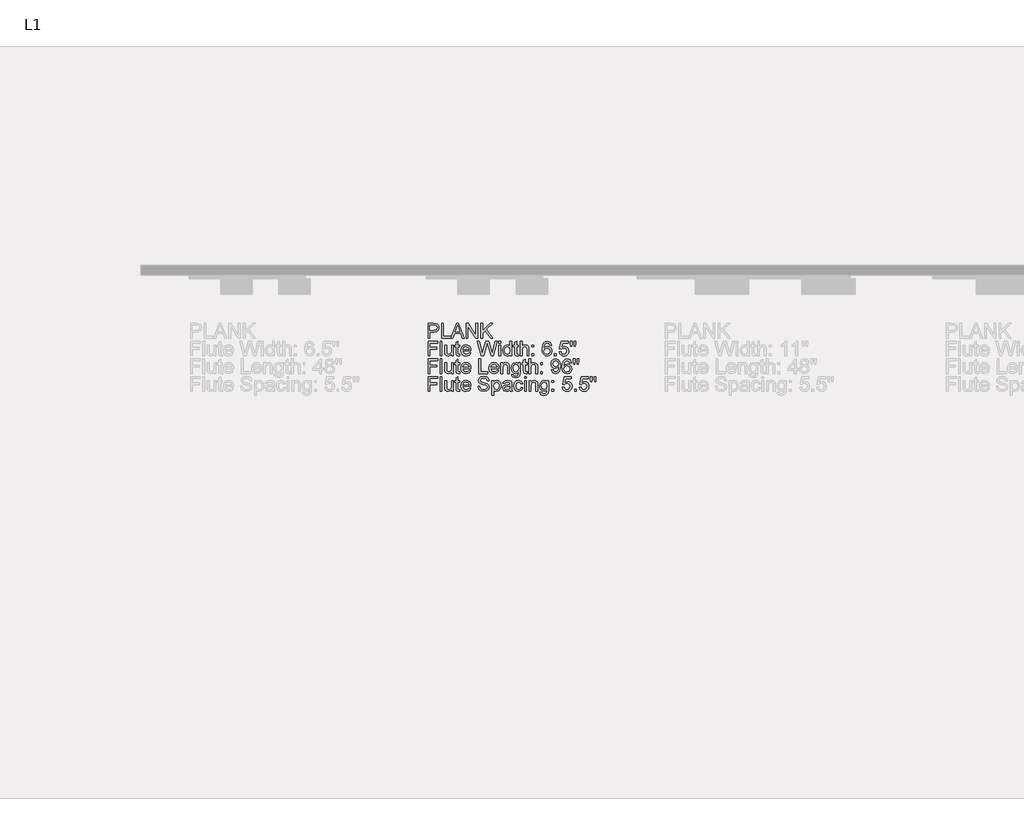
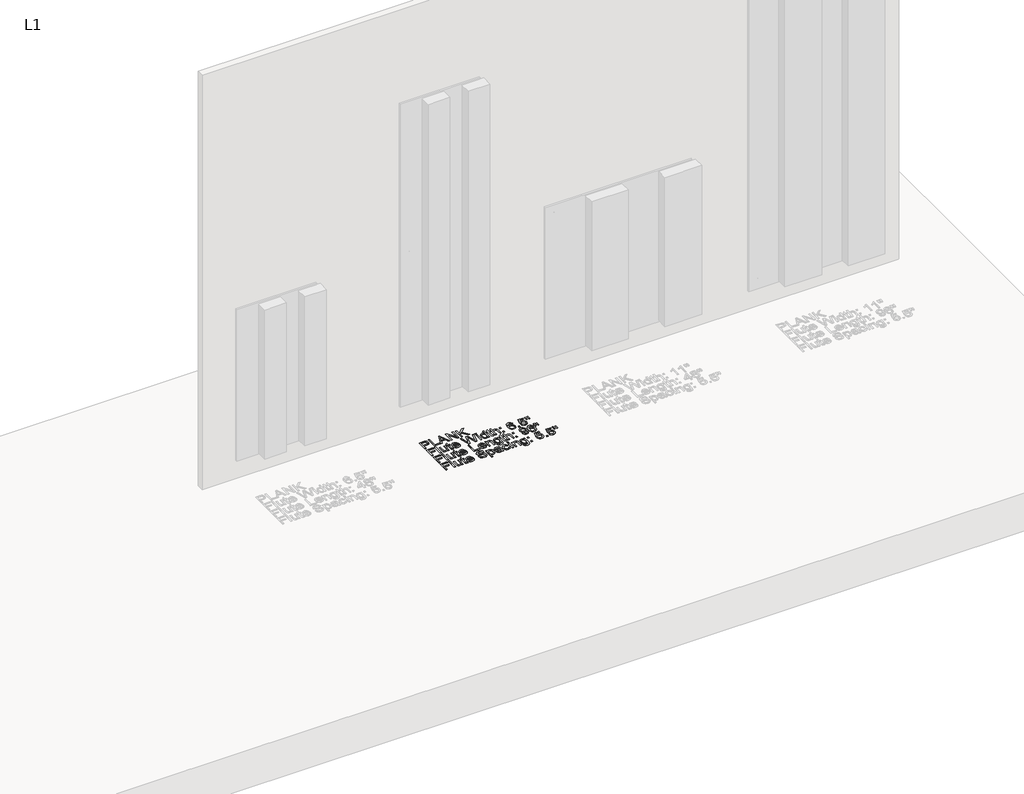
# One storey, part 13 of 17: 1 proxy.
"""IFC4 building model written with IfcOpenShell, lengths in millimetres."""

from ifc_helpers import new_model, si_unit, origin, origin_with_axes, place, context, project, spatial, polyline, outline, extrude, element, save

model = new_model("IFC4")

# Units and contexts
model_context = context("Model", 3, world=origin())
ifc_project = project(units=[si_unit("LENGTHUNIT", "METRE", prefix="MILLI")], contexts=[model_context])

# Site, building, storey
site = spatial("IfcSite", under=ifc_project)
building = spatial("IfcBuilding", under=site)
storey = spatial("IfcBuildingStorey", under=building, Name="L1", Elevation=0.0)

# Proxy
placement = place(None, origin())
element("IfcBuildingElementProxy", 1, Name="3\" Arial", ObjectType="3\" Arial", at=placement, inside=storey, context=model_context, shape_type="SweptSolid", body=[
    extrude(outline(polyline([(14899.1224056, -355.6), (14899.1224056, -279.0522917), (14927.4914049, -279.0522917), (14938.928709, -279.7811395), (14948.2261907, -283.3599691), (14954.2532014, -290.7605776), (14956.5331868, -301.198052), (14954.9937295, -310.2198797), (14950.3753573, -317.7372908), (14941.738978, -322.8111928), (14928.1454991, -324.5024935), (14908.6908691, -324.5024935), (14908.6908691, -355.6), (14899.1224056, -355.6)]), holes=[polyline([(14908.6908691, -314.9340299), (14928.7061513, -314.9340299), (14942.7972089, -311.4206097), (14946.9647233, -301.5344433), (14944.507198, -293.6105594), (14938.050354, -289.2748494), (14928.4818904, -288.6207552), (14908.6908691, -288.6207552), (14908.6908691, -314.9340299)])]), origin_with_axes(), (0.0, 0.0, 1.0), 3.175),
    extrude(outline(polyline([(14969.6898242, -355.6), (14969.6898242, -279.0522917), (14979.2582878, -279.0522917), (14979.2582878, -346.0315365), (15017.5321419, -346.0315365), (15017.5321419, -355.6), (14969.6898242, -355.6)])), origin_with_axes(), (0.0, 0.0, 1.0), 3.175),
    extrude(outline(polyline([(15019.4009825, -355.6), (15049.9565252, -279.0522917), (15058.10467, -279.0522917), (15088.6415243, -355.6), (15078.531097, -355.6), (15069.7849233, -331.6788411), (15038.2388951, -331.6788411), (15029.4927214, -355.6), (15019.4009825, -355.6)]), holes=[polyline([(15041.7523153, -322.1103776), (15066.2901915, -322.1103776), (15059.3754815, -303.2911534), (15054.0119092, -288.6207552), (15049.2463658, -301.6465737), (15041.7523153, -322.1103776)])]), origin_with_axes(), (0.0, 0.0, 1.0), 3.175),
    extrude(outline(polyline([(15098.864082, -355.6), (15098.864082, -279.0522917), (15109.1053282, -279.0522917), (15149.0985156, -339.696167), (15149.0985156, -279.0522917), (15158.6669792, -279.0522917), (15158.6669792, -355.6), (15148.425733, -355.6), (15108.4325456, -294.9374362), (15108.4325456, -355.6), (15098.864082, -355.6)])), origin_with_axes(), (0.0, 0.0, 1.0), 3.175),
    extrude(outline(polyline([(15175.4117904, -355.6), (15175.4117904, -279.0522917), (15184.9802539, -279.0522917), (15184.9802539, -316.5225444), (15224.2259052, -279.0522917), (15237.6068034, -279.0522917), (15204.6404563, -310.5235663), (15238.8028613, -355.6), (15227.1039196, -355.6), (15197.8565652, -316.9897545), (15184.9802539, -329.2867253), (15184.9802539, -355.6), (15175.4117904, -355.6)])), origin_with_axes(), (0.0, 0.0, 1.0), 3.175),
    extrude(outline(polyline([(14899.1224056, -448.5448112), (14899.1224056, -371.9971029), (14950.5528971, -371.9971029), (14950.5528971, -381.5655664), (14908.6908691, -381.5655664), (14908.6908691, -404.2906673), (14944.5726074, -404.2906673), (14944.5726074, -413.8591309), (14908.6908691, -413.8591309), (14908.6908691, -448.5448112), (14899.1224056, -448.5448112)])), origin_with_axes(), (0.0, 0.0, 1.0), 3.175),
    extrude(outline(polyline([(14962.5134766, -448.5448112), (14962.5134766, -371.9971029), (14972.0819401, -371.9971029), (14972.0819401, -448.5448112), (14962.5134766, -448.5448112)])), origin_with_axes(), (0.0, 0.0, 1.0), 3.175),
    extrude(outline(polyline([(15022.3163737, -448.5448112), (15022.3163737, -438.8829056), (15014.8223232, -447.0263783), (15005.0482872, -449.7408691), (14996.04982, -447.8346518), (14989.8452694, -443.05042), (14986.9952876, -436.0048912), (14986.4346354, -427.1092103), (14986.4346354, -392.3300879), (14996.003099, -392.3300879), (14996.003099, -422.6053046), (14996.5824395, -432.3606522), (15000.3668416, -438.0886484), (15007.4964683, -440.1724056), (15015.4857615, -438.0419274), (15020.7652361, -432.2391775), (15022.3163737, -421.5774423), (15022.3163737, -392.3300879), (15031.8848372, -392.3300879), (15031.8848372, -448.5448112), (15022.3163737, -448.5448112)])), origin_with_axes(), (0.0, 0.0, 1.0), 3.175),
    extrude(outline(polyline([(15065.3744596, -440.5648621), (15066.5705176, -448.8251373), (15059.4128583, -449.7408691), (15051.3955324, -448.1523547), (15047.3962137, -443.9848403), (15046.2375326, -433.1268768), (15046.2375326, -401.8985514), (15039.0611849, -401.8985514), (15039.0611849, -392.3300879), (15046.2375326, -392.3300879), (15046.2375326, -378.6688636), (15055.8059961, -373.0436536), (15055.8059961, -392.3300879), (15065.3744596, -392.3300879), (15065.3744596, -401.8985514), (15055.8059961, -401.8985514), (15055.8059961, -432.8465507), (15056.310583, -437.7802897), (15057.9458185, -439.5276556), (15061.2069452, -440.1724056), (15065.3744596, -440.5648621)])), origin_with_axes(), (0.0, 0.0, 1.0), 3.175),
    extrude(outline(polyline([(15114.3007049, -431.8), (15123.6822843, -432.9960579), (15114.908078, -445.3490939), (15098.5650675, -449.7408691), (15087.338008, -447.846332), (15078.6992927, -442.1627208), (15073.1908852, -433.0591313), (15071.3547494, -420.9046597), (15073.2095736, -408.3413792), (15078.7740463, -398.9457834), (15087.2959591, -393.0869683), (15098.0231038, -391.1340299), (15108.4161932, -393.0822962), (15116.7208533, -398.927095), (15122.1661875, -408.3040024), (15123.9812988, -420.8485945), (15123.9252336, -423.4275944), (15080.9232129, -423.4275944), (15086.4269483, -435.855384), (15098.7519516, -440.1724056), (15108.1335311, -438.1727462), (15114.3007049, -431.8)]), holes=[polyline([(15080.9232129, -413.8591309), (15114.4128353, -413.8591309), (15110.5817122, -405.1877108), (15097.985727, -400.7024935), (15086.2026874, -404.2813231), (15080.9232129, -413.8591309)])]), origin_with_axes(), (0.0, 0.0, 1.0), 3.175),
    extrude(outline(polyline([(15178.34587, -448.5448112), (15157.4709212, -371.9971029), (15167.3383993, -371.9971029), (15179.4484859, -422.3062901), (15183.186167, -437.8363549), (15187.1854857, -424.100377), (15202.3604709, -371.9971029), (15216.5823474, -371.9971029), (15227.6085065, -409.7663701), (15235.8127165, -437.8363549), (15239.4382671, -422.7548118), (15251.6417958, -371.9971029), (15261.5279622, -371.9971029), (15240.6717019, -448.5448112), (15230.4304557, -448.5448112), (15212.0597533, -389.4894503), (15209.4994417, -381.2478635), (15206.6214273, -391.1714068), (15189.8953045, -448.5448112), (15178.34587, -448.5448112)])), origin_with_axes(), (0.0, 0.0, 1.0), 3.175),
    extrude(outline(polyline([(15269.9003678, -381.5655664), (15269.9003678, -371.9971029), (15279.4688314, -371.9971029), (15279.4688314, -381.5655664), (15269.9003678, -381.5655664)])), origin_with_axes(), (0.0, 0.0, 1.0), 3.175),
    extrude(outline(polyline([(15269.9003678, -448.5448112), (15269.9003678, -392.3300879), (15279.4688314, -392.3300879), (15279.4688314, -448.5448112), (15269.9003678, -448.5448112)])), origin_with_axes(), (0.0, 0.0, 1.0), 3.175),
    extrude(outline(polyline([(15328.507207, -448.5448112), (15328.507207, -439.5183114), (15322.1765097, -447.1852297), (15313.4256639, -449.7408691), (15301.5772149, -446.0405649), (15293.2048093, -435.7152209), (15290.2333529, -420.4935148), (15292.9712043, -405.2624644), (15301.1754142, -394.778269), (15313.3882871, -391.1340299), (15322.2092144, -393.7410625), (15328.507207, -400.5156094), (15328.507207, -371.9971029), (15338.0756706, -371.9971029), (15338.0756706, -448.5448112), (15328.507207, -448.5448112)]), holes=[polyline([(15299.8018164, -420.4561379), (15304.118838, -435.2666992), (15314.304019, -440.1724056), (15324.3677252, -435.4909601), (15328.507207, -421.1849858), (15324.2929716, -405.6549209), (15313.9115625, -400.7024935), (15303.838512, -405.4586927), (15299.8018164, -420.4561379)])]), origin_with_axes(), (0.0, 0.0, 1.0), 3.175),
    extrude(outline(polyline([(15372.7613509, -440.5648621), (15373.9574089, -448.8251373), (15366.7997496, -449.7408691), (15358.7824237, -448.1523547), (15354.783105, -443.9848403), (15353.6244238, -433.1268768), (15353.6244238, -401.8985514), (15346.4480762, -401.8985514), (15346.4480762, -392.3300879), (15353.6244238, -392.3300879), (15353.6244238, -378.6688636), (15363.1928874, -373.0436536), (15363.1928874, -392.3300879), (15372.7613509, -392.3300879), (15372.7613509, -401.8985514), (15363.1928874, -401.8985514), (15363.1928874, -432.8465507), (15363.6974743, -437.7802897), (15365.3327098, -439.5276556), (15368.5938365, -440.1724056), (15372.7613509, -440.5648621)])), origin_with_axes(), (0.0, 0.0, 1.0), 3.175),
    extrude(outline(polyline([(15382.3298145, -448.5448112), (15382.3298145, -371.9971029), (15391.898278, -371.9971029), (15391.898278, -400.1418413), (15399.3596238, -393.3859828), (15408.5496472, -391.1340299), (15419.2954802, -393.5915553), (15425.8177337, -400.3847906), (15427.7800163, -412.9620874), (15427.7800163, -448.5448112), (15418.2115527, -448.5448112), (15418.2115527, -413.9525729), (15415.1653427, -403.860834), (15406.5312994, -400.7024935), (15398.6915133, -402.8329717), (15393.4587598, -408.607689), (15391.898278, -418.6807394), (15391.898278, -448.5448112), (15382.3298145, -448.5448112)])), origin_with_axes(), (0.0, 0.0, 1.0), 3.175),
    extrude(outline(polyline([(15443.3287695, -401.8985514), (15443.3287695, -392.3300879), (15452.8972331, -392.3300879), (15452.8972331, -401.8985514), (15443.3287695, -401.8985514)])), origin_with_axes(), (0.0, 0.0, 1.0), 3.175),
    extrude(outline(polyline([(15443.3287695, -448.5448112), (15443.3287695, -438.9763477), (15452.8972331, -438.9763477), (15452.8972331, -448.5448112), (15443.3287695, -448.5448112)])), origin_with_axes(), (0.0, 0.0, 1.0), 3.175),
    extrude(outline(polyline([(15547.3858106, -392.3300879), (15537.817347, -393.5261458), (15534.1917964, -385.5461967), (15524.6046444, -381.5655664), (15515.9706012, -383.8829287), (15509.4390035, -392.5823814), (15506.7198405, -409.6355512), (15515.1576555, -402.0013377), (15525.6138183, -399.5064355), (15534.453434, -401.2117525), (15541.872731, -406.3277035), (15546.9045841, -414.144129), (15548.5818685, -423.9508698), (15545.423528, -437.1542281), (15536.7334195, -446.4984308), (15524.1934995, -449.7408691), (15513.337872, -447.5917025), (15504.6921485, -441.1442027), (15499.0365698, -429.7629638), (15497.151377, -412.8125802), (15499.2444784, -393.7550788), (15505.5237826, -380.7245882), (15514.0970885, -374.1789742), (15525.2026734, -371.9971029), (15540.3215933, -377.398052), (15547.3858106, -392.3300879)]), holes=[polyline([(15506.7198405, -423.8013625), (15508.9344165, -432.0896703), (15514.8212642, -438.1073368), (15523.4459633, -440.1724056), (15534.7244159, -435.8927608), (15539.013405, -424.2685726), (15534.7804811, -413.1396273), (15523.0535068, -409.0748991), (15511.4760397, -413.1396273), (15506.7198405, -423.8013625)])]), origin_with_axes(), (0.0, 0.0, 1.0), 3.175),
    extrude(outline(polyline([(15561.7385059, -448.5448112), (15561.7385059, -438.9763477), (15571.3069694, -438.9763477), (15571.3069694, -448.5448112), (15561.7385059, -448.5448112)])), origin_with_axes(), (0.0, 0.0, 1.0), 3.175),
    extrude(outline(polyline([(15586.8557227, -428.2118262), (15596.4241862, -427.0157682), (15601.2457948, -436.8739021), (15611.2440917, -440.1724056), (15623.2420479, -435.5844021), (15627.5216927, -423.408906), (15623.5130298, -412.0463555), (15611.3935989, -407.8788411), (15602.9931607, -409.5421092), (15597.6202441, -413.8591309), (15588.0517806, -412.6630729), (15596.4241862, -373.1931608), (15633.5019824, -373.1931608), (15633.5019824, -382.7616243), (15604.161186, -382.7616243), (15600.0497368, -403.8421456), (15614.0473525, -398.3103776), (15622.9897544, -400.0250388), (15630.4183955, -405.1690224), (15635.4222161, -413.0088084), (15637.0901563, -422.810877), (15635.5904117, -432.3793406), (15631.0911781, -440.5648621), (15622.4758233, -447.4468674), (15611.2067148, -449.7408691), (15601.808783, -448.2668212), (15594.3217406, -443.8446773), (15589.1894373, -436.9883685), (15586.8557227, -428.2118262)])), origin_with_axes(), (0.0, 0.0, 1.0), 3.175),
    extrude(outline(polyline([(15647.7986125, -399.5064355), (15645.4625619, -384.7239069), (15645.4625619, -371.9971029), (15655.0310254, -371.9971029), (15655.0310254, -384.7239069), (15652.937924, -399.5064355), (15647.7986125, -399.5064355)])), origin_with_axes(), (0.0, 0.0, 1.0), 3.175),
    extrude(outline(polyline([(15666.8794744, -399.5064355), (15664.5994889, -384.7239069), (15664.5994889, -371.9971029), (15674.1679525, -371.9971029), (15674.1679525, -384.7239069), (15671.9253438, -399.5064355), (15666.8794744, -399.5064355)])), origin_with_axes(), (0.0, 0.0, 1.0), 3.175),
    extrude(outline(polyline([(14899.1224056, -541.4896224), (14899.1224056, -464.9419141), (14950.5528971, -464.9419141), (14950.5528971, -474.5103776), (14908.6908691, -474.5103776), (14908.6908691, -497.2354785), (14944.5726074, -497.2354785), (14944.5726074, -506.8039421), (14908.6908691, -506.8039421), (14908.6908691, -541.4896224), (14899.1224056, -541.4896224)])), origin_with_axes(), (0.0, 0.0, 1.0), 3.175),
    extrude(outline(polyline([(14962.5134766, -541.4896224), (14962.5134766, -464.9419141), (14972.0819401, -464.9419141), (14972.0819401, -541.4896224), (14962.5134766, -541.4896224)])), origin_with_axes(), (0.0, 0.0, 1.0), 3.175),
    extrude(outline(polyline([(15022.3163737, -541.4896224), (15022.3163737, -531.8277168), (15014.8223232, -539.9711895), (15005.0482872, -542.6856803), (14996.04982, -540.779463), (14989.8452694, -535.9952312), (14986.9952876, -528.9497024), (14986.4346354, -520.0540215), (14986.4346354, -485.2748991), (14996.003099, -485.2748991), (14996.003099, -515.5501158), (14996.5824395, -525.3054634), (15000.3668416, -531.0334596), (15007.4964683, -533.1172168), (15015.4857615, -530.9867386), (15020.7652361, -525.1839887), (15022.3163737, -514.5222535), (15022.3163737, -485.2748991), (15031.8848372, -485.2748991), (15031.8848372, -541.4896224), (15022.3163737, -541.4896224)])), origin_with_axes(), (0.0, 0.0, 1.0), 3.175),
    extrude(outline(polyline([(15065.3744596, -533.5096733), (15066.5705176, -541.7699485), (15059.4128583, -542.6856803), (15051.3955324, -541.0971659), (15047.3962137, -536.9296515), (15046.2375326, -526.071688), (15046.2375326, -494.8433626), (15039.0611849, -494.8433626), (15039.0611849, -485.2748991), (15046.2375326, -485.2748991), (15046.2375326, -471.6136748), (15055.8059961, -465.9884648), (15055.8059961, -485.2748991), (15065.3744596, -485.2748991), (15065.3744596, -494.8433626), (15055.8059961, -494.8433626), (15055.8059961, -525.7913619), (15056.310583, -530.7251009), (15057.9458185, -532.4724668), (15061.2069452, -533.1172168), (15065.3744596, -533.5096733)])), origin_with_axes(), (0.0, 0.0, 1.0), 3.175),
    extrude(outline(polyline([(15114.3007049, -524.7448112), (15123.6822843, -525.9408691), (15114.908078, -538.2939051), (15098.5650675, -542.6856803), (15087.338008, -540.7911432), (15078.6992927, -535.107532), (15073.1908852, -526.0039425), (15071.3547494, -513.8494709), (15073.2095736, -501.2861904), (15078.7740463, -491.8905946), (15087.2959591, -486.0317795), (15098.0231038, -484.0788411), (15108.4161932, -486.0271074), (15116.7208533, -491.8719062), (15122.1661875, -501.2488136), (15123.9812988, -513.7934057), (15123.9252336, -516.3724056), (15080.9232129, -516.3724056), (15086.4269483, -528.8001952), (15098.7519516, -533.1172168), (15108.1335311, -531.1175574), (15114.3007049, -524.7448112)]), holes=[polyline([(15080.9232129, -506.8039421), (15114.4128353, -506.8039421), (15110.5817122, -498.132522), (15097.985727, -493.6473047), (15086.2026874, -497.2261343), (15080.9232129, -506.8039421)])]), origin_with_axes(), (0.0, 0.0, 1.0), 3.175),
    extrude(outline(polyline([(15164.6472689, -541.4896224), (15164.6472689, -464.9419141), (15174.2157324, -464.9419141), (15174.2157324, -531.9211589), (15212.4895866, -531.9211589), (15212.4895866, -541.4896224), (15164.6472689, -541.4896224)])), origin_with_axes(), (0.0, 0.0, 1.0), 3.175),
    extrude(outline(polyline([(15261.4158318, -524.7448112), (15270.7974113, -525.9408691), (15262.023205, -538.2939051), (15245.6801945, -542.6856803), (15234.453135, -540.7911432), (15225.8144196, -535.107532), (15220.3060121, -526.0039425), (15218.4698763, -513.8494709), (15220.3247005, -501.2861904), (15225.8891732, -491.8905946), (15234.4110861, -486.0317795), (15245.1382307, -484.0788411), (15255.5313202, -486.0271074), (15263.8359803, -491.8719062), (15269.2813144, -501.2488136), (15271.0964258, -513.7934057), (15271.0403606, -516.3724056), (15228.0383398, -516.3724056), (15233.5420752, -528.8001952), (15245.8670786, -533.1172168), (15255.248658, -531.1175574), (15261.4158318, -524.7448112)]), holes=[polyline([(15228.0383398, -506.8039421), (15261.5279622, -506.8039421), (15257.6968391, -498.132522), (15245.1008539, -493.6473047), (15233.3178144, -497.2261343), (15228.0383398, -506.8039421)])]), origin_with_axes(), (0.0, 0.0, 1.0), 3.175),
    extrude(outline(polyline([(15280.6648893, -541.4896224), (15280.6648893, -485.2748991), (15290.2333529, -485.2748991), (15290.2333529, -493.1240293), (15297.5498636, -486.3401382), (15307.5388162, -484.0788411), (15316.5746602, -485.9009607), (15322.741834, -490.6851924), (15325.6105042, -497.7213771), (15326.1150911, -506.9721377), (15326.1150911, -541.4896224), (15316.5466276, -541.4896224), (15316.5466276, -508.2616377), (15315.4440117, -499.79579), (15311.5474792, -495.319917), (15304.9785047, -493.6473047), (15294.5970955, -497.4036742), (15290.2333529, -511.6629274), (15290.2333529, -541.4896224), (15280.6648893, -541.4896224)])), origin_with_axes(), (0.0, 0.0, 1.0), 3.175),
    extrude(outline(polyline([(15336.8796126, -546.2738542), (15346.4480762, -547.4699121), (15349.5503515, -552.5157816), (15358.8384889, -554.6462598), (15368.6312133, -552.2354555), (15373.3033147, -545.4702527), (15373.9574089, -534.3132747), (15367.2202387, -539.6955355), (15359.0066846, -541.4896224), (15349.1415426, -539.4011931), (15341.785319, -533.1359052), (15337.2089958, -523.950554), (15335.6835547, -513.1019347), (15338.4214061, -498.272685), (15346.3452899, -487.7791454), (15358.5394744, -484.0788411), (15367.0754036, -486.1719425), (15373.9574089, -492.4512467), (15373.9574089, -485.2748991), (15383.5258724, -485.2748991), (15383.5258724, -533.8086878), (15380.9094957, -552.3943069), (15372.6211879, -561.0376944), (15358.6516049, -564.2147233), (15342.7384277, -559.7388502), (15338.2415302, -554.1346647), (15336.8796126, -546.2738542)]), holes=[polyline([(15345.2520182, -512.4478405), (15349.3354348, -527.2584017), (15359.5860251, -531.9211589), (15369.8179271, -527.2864343), (15373.9574089, -512.7281666), (15369.6964524, -498.4595691), (15359.4365179, -493.6473047), (15349.3915, -498.3848154), (15345.2520182, -512.4478405)])]), origin_with_axes(), (0.0, 0.0, 1.0), 3.175),
    extrude(outline(polyline([(15418.2115527, -533.5096733), (15419.4076107, -541.7699485), (15412.2499514, -542.6856803), (15404.2326255, -541.0971659), (15400.2333068, -536.9296515), (15399.0746257, -526.071688), (15399.0746257, -494.8433626), (15391.898278, -494.8433626), (15391.898278, -485.2748991), (15399.0746257, -485.2748991), (15399.0746257, -471.6136748), (15408.6430892, -465.9884648), (15408.6430892, -485.2748991), (15418.2115527, -485.2748991), (15418.2115527, -494.8433626), (15408.6430892, -494.8433626), (15408.6430892, -525.7913619), (15409.1476761, -530.7251009), (15410.7829116, -532.4724668), (15414.0440383, -533.1172168), (15418.2115527, -533.5096733)])), origin_with_axes(), (0.0, 0.0, 1.0), 3.175),
    extrude(outline(polyline([(15427.7800163, -541.4896224), (15427.7800163, -464.9419141), (15437.3484798, -464.9419141), (15437.3484798, -493.0866525), (15444.8098257, -486.330794), (15453.999849, -484.0788411), (15464.7456821, -486.5363664), (15471.2679355, -493.3296018), (15473.2302181, -505.9068986), (15473.2302181, -541.4896224), (15463.6617546, -541.4896224), (15463.6617546, -506.8973841), (15460.6155445, -496.8056452), (15451.9815012, -493.6473047), (15444.1417152, -495.7777829), (15438.9089617, -501.5525002), (15437.3484798, -511.6255506), (15437.3484798, -541.4896224), (15427.7800163, -541.4896224)])), origin_with_axes(), (0.0, 0.0, 1.0), 3.175),
    extrude(outline(polyline([(15488.7789714, -494.8433626), (15488.7789714, -485.2748991), (15498.3474349, -485.2748991), (15498.3474349, -494.8433626), (15488.7789714, -494.8433626)])), origin_with_axes(), (0.0, 0.0, 1.0), 3.175),
    extrude(outline(polyline([(15488.7789714, -541.4896224), (15488.7789714, -531.9211589), (15498.3474349, -531.9211589), (15498.3474349, -541.4896224), (15488.7789714, -541.4896224)])), origin_with_axes(), (0.0, 0.0, 1.0), 3.175),
    extrude(outline(polyline([(15544.9936947, -522.3526953), (15554.5621582, -521.1566374), (15558.8604914, -530.2859234), (15567.0086362, -533.1172168), (15574.7549802, -531.2950973), (15580.0064221, -526.4267677), (15583.13673, -518.1104273), (15584.519672, -507.0095145), (15584.4636068, -505.140674), (15576.8107048, -512.3917753), (15566.3171652, -515.1763477), (15557.5920159, -513.4757028), (15550.3292344, -508.3737681), (15545.4305361, -500.4919331), (15543.7976367, -490.4515874), (15545.5099619, -480.0795224), (15550.6469373, -471.9500661), (15558.3629126, -466.6939521), (15567.8122376, -464.9419141), (15581.4454293, -468.9412328), (15590.8270088, -480.3411601), (15594.0320703, -501.7580726), (15590.836353, -524.9971047), (15581.3332989, -538.1630862), (15566.5601144, -542.6856803), (15551.8523394, -537.3501406), (15544.9936947, -522.3526953)]), holes=[polyline([(15584.4636068, -490.2273265), (15580.3334692, -478.7526456), (15569.3633753, -474.5103776), (15557.8513176, -479.0796927), (15553.3661003, -490.9187975), (15557.6083683, -501.5244675), (15569.1017376, -505.6078841), (15580.1372409, -501.5244675), (15584.4636068, -490.2273265)])]), origin_with_axes(), (0.0, 0.0, 1.0), 3.175),
    extrude(outline(polyline([(15651.4428516, -485.2748991), (15641.874388, -486.470957), (15638.2488374, -478.4910079), (15628.6616854, -474.5103776), (15620.0276422, -476.8277399), (15613.4960445, -485.5271926), (15610.7768815, -502.5803624), (15619.2146965, -494.9461489), (15629.6708593, -492.4512467), (15638.5104751, -494.1565637), (15645.929772, -499.2725147), (15650.9616251, -507.0889402), (15652.6389095, -516.8956809), (15649.480569, -530.0990393), (15640.7904605, -539.443242), (15628.2505405, -542.6856803), (15617.3949131, -540.5365137), (15608.7491895, -534.0890139), (15603.0936109, -522.707775), (15601.208418, -505.7573914), (15603.3015194, -486.69989), (15609.5808236, -473.6693994), (15618.1541295, -467.1237854), (15629.2597144, -464.9419141), (15644.3786343, -470.3428632), (15651.4428516, -485.2748991)]), holes=[polyline([(15610.7768815, -516.7461737), (15612.9914576, -525.0344815), (15618.8783052, -531.052148), (15627.5030043, -533.1172168), (15638.7814569, -528.837572), (15643.070446, -517.2133838), (15638.8375222, -506.0844385), (15627.1105478, -502.0197103), (15615.5330807, -506.0844385), (15610.7768815, -516.7461737)])]), origin_with_axes(), (0.0, 0.0, 1.0), 3.175),
    extrude(outline(polyline([(15663.3473658, -492.4512467), (15661.0113151, -477.6687181), (15661.0113151, -464.9419141), (15670.5797787, -464.9419141), (15670.5797787, -477.6687181), (15668.4866773, -492.4512467), (15663.3473658, -492.4512467)])), origin_with_axes(), (0.0, 0.0, 1.0), 3.175),
    extrude(outline(polyline([(15682.4282276, -492.4512467), (15680.1482422, -477.6687181), (15680.1482422, -464.9419141), (15689.7167057, -464.9419141), (15689.7167057, -477.6687181), (15687.4740971, -492.4512467), (15682.4282276, -492.4512467)])), origin_with_axes(), (0.0, 0.0, 1.0), 3.175),
    extrude(outline(polyline([(14899.1224056, -634.4344336), (14899.1224056, -557.8867253), (14950.5528971, -557.8867253), (14950.5528971, -567.4551888), (14908.6908691, -567.4551888), (14908.6908691, -590.1802897), (14944.5726074, -590.1802897), (14944.5726074, -599.7487533), (14908.6908691, -599.7487533), (14908.6908691, -634.4344336), (14899.1224056, -634.4344336)])), origin_with_axes(), (0.0, 0.0, 1.0), 3.175),
    extrude(outline(polyline([(14962.5134766, -634.4344336), (14962.5134766, -557.8867253), (14972.0819401, -557.8867253), (14972.0819401, -634.4344336), (14962.5134766, -634.4344336)])), origin_with_axes(), (0.0, 0.0, 1.0), 3.175),
    extrude(outline(polyline([(15022.3163737, -634.4344336), (15022.3163737, -624.772528), (15014.8223232, -632.9160007), (15005.0482872, -635.6304915), (14996.04982, -633.7242742), (14989.8452694, -628.9400424), (14986.9952876, -621.8945136), (14986.4346354, -612.9988327), (14986.4346354, -578.2197103), (14996.003099, -578.2197103), (14996.003099, -608.494927), (14996.5824395, -618.2502746), (15000.3668416, -623.9782708), (15007.4964683, -626.062028), (15015.4857615, -623.9315498), (15020.7652361, -618.1287999), (15022.3163737, -607.4670647), (15022.3163737, -578.2197103), (15031.8848372, -578.2197103), (15031.8848372, -634.4344336), (15022.3163737, -634.4344336)])), origin_with_axes(), (0.0, 0.0, 1.0), 3.175),
    extrude(outline(polyline([(15065.3744596, -626.4544845), (15066.5705176, -634.7147597), (15059.4128583, -635.6304915), (15051.3955324, -634.0419771), (15047.3962137, -629.8744627), (15046.2375326, -619.0164992), (15046.2375326, -587.7881738), (15039.0611849, -587.7881738), (15039.0611849, -578.2197103), (15046.2375326, -578.2197103), (15046.2375326, -564.558486), (15055.8059961, -558.933276), (15055.8059961, -578.2197103), (15065.3744596, -578.2197103), (15065.3744596, -587.7881738), (15055.8059961, -587.7881738), (15055.8059961, -618.7361731), (15056.310583, -623.6699121), (15057.9458185, -625.417278), (15061.2069452, -626.062028), (15065.3744596, -626.4544845)])), origin_with_axes(), (0.0, 0.0, 1.0), 3.175),
    extrude(outline(polyline([(15114.3007049, -617.6896224), (15123.6822843, -618.8856803), (15114.908078, -631.2387163), (15098.5650675, -635.6304915), (15087.338008, -633.7359544), (15078.6992927, -628.0523432), (15073.1908852, -618.9487537), (15071.3547494, -606.7942821), (15073.2095736, -594.2310016), (15078.7740463, -584.8354058), (15087.2959591, -578.9765907), (15098.0231038, -577.0236523), (15108.4161932, -578.9719186), (15116.7208533, -584.8167174), (15122.1661875, -594.1936248), (15123.9812988, -606.7382169), (15123.9252336, -609.3172168), (15080.9232129, -609.3172168), (15086.4269483, -621.7450064), (15098.7519516, -626.062028), (15108.1335311, -624.0623686), (15114.3007049, -617.6896224)]), holes=[polyline([(15080.9232129, -599.7487533), (15114.4128353, -599.7487533), (15110.5817122, -591.0773332), (15097.985727, -586.5921159), (15086.2026874, -590.1709455), (15080.9232129, -599.7487533)])]), origin_with_axes(), (0.0, 0.0, 1.0), 3.175),
    extrude(outline(polyline([(15161.0590951, -608.1211589), (15170.6275586, -608.1211589), (15173.7111455, -617.6989666), (15181.2425728, -623.7540099), (15192.7172537, -626.062028), (15202.7155506, -624.3146621), (15209.1723946, -619.5117419), (15211.2935286, -613.0922747), (15209.7050142, -607.1213292), (15203.2014491, -602.7762749), (15189.2692429, -599.1226917), (15174.2717976, -594.4038693), (15166.1329971, -587.2835869), (15163.4512109, -577.7711886), (15166.7684029, -566.9412577), (15176.4583411, -559.2976999), (15190.6428407, -556.6906673), (15205.7804491, -559.4191745), (15215.872188, -567.4365004), (15219.6659342, -579.4157682), (15210.0974707, -579.4157682), (15204.6778332, -569.585667), (15191.0166088, -566.2591309), (15177.3180077, -569.5482902), (15173.0196745, -577.4908625), (15176.0658846, -584.1252464), (15191.6893914, -589.4701303), (15208.6210867, -594.2730505), (15217.8811915, -602.0287387), (15220.8619922, -612.8493254), (15217.4326698, -624.2959737), (15207.5651918, -632.6496909), (15193.0910218, -635.6304915), (15176.0004751, -632.4160858), (15165.1892326, -622.7354918), (15161.0590951, -608.1211589)])), origin_with_axes(), (0.0, 0.0, 1.0), 3.175),
    extrude(outline(polyline([(15234.0186296, -655.9634766), (15234.0186296, -578.2197103), (15243.5870931, -578.2197103), (15243.5870931, -587.6012898), (15250.2027886, -579.6680617), (15259.1358464, -577.0236523), (15271.2646214, -580.7239566), (15279.1885053, -591.1520868), (15281.8609473, -605.8972386), (15278.8427698, -621.3992709), (15270.0779077, -631.9582199), (15257.9771652, -635.6304915), (15249.6514806, -633.1729662), (15243.5870931, -626.9590715), (15243.5870931, -655.9634766), (15234.0186296, -655.9634766)]), holes=[polyline([(15243.5870931, -606.7755937), (15247.7265749, -621.3525498), (15257.7715928, -626.062028), (15268.0221831, -621.1843542), (15272.2924837, -606.0654343), (15268.1249693, -591.4511013), (15258.1640493, -586.5921159), (15248.006901, -591.75946), (15243.5870931, -606.7755937)])]), origin_with_axes(), (0.0, 0.0, 1.0), 3.175),
    extrude(outline(polyline([(15328.507207, -627.2580859), (15319.2284138, -633.7429626), (15308.9778234, -635.6304915), (15295.0829941, -631.089209), (15290.2333529, -619.4837093), (15292.0648166, -611.9149051), (15296.877081, -606.420514), (15303.5768743, -603.2808619), (15311.8558379, -601.8418547), (15328.4511418, -598.5526953), (15328.507207, -596.4222171), (15325.8721419, -589.3579999), (15315.2945044, -586.5921159), (15305.6139105, -588.4329238), (15300.9978744, -594.9645215), (15291.4294108, -593.7684635), (15295.5688926, -584.4242609), (15303.9039214, -578.9485581), (15316.5279392, -577.0236523), (15328.1240947, -578.7242972), (15334.6743808, -582.9945979), (15337.6084604, -589.4888187), (15338.0756706, -597.8612243), (15338.0756706, -609.7657385), (15338.5615691, -626.3890751), (15340.4677865, -634.4344336), (15330.8993229, -634.4344336), (15328.507207, -627.2580859)]), holes=[polyline([(15328.507207, -608.1211589), (15313.0705842, -611.0552385), (15304.8383417, -612.6063761), (15301.1100048, -615.1293109), (15299.8018164, -618.8109267), (15302.6517982, -623.987615), (15311.0148596, -626.062028), (15320.6954536, -623.7726983), (15326.937381, -618.2315862), (15328.4511418, -610.8309776), (15328.507207, -608.1211589)])]), origin_with_axes(), (0.0, 0.0, 1.0), 3.175),
    extrude(outline(polyline([(15387.1140462, -614.1014486), (15396.6825098, -615.2975065), (15389.0015752, -630.2388866), (15373.82659, -635.6304915), (15363.6484173, -633.7499707), (15355.6894926, -628.1084084), (15350.5525172, -618.9534258), (15348.8401921, -606.5326444), (15351.7649275, -590.6381556), (15360.6792969, -580.4249421), (15373.6957712, -577.0236523), (15388.2446948, -581.6957537), (15395.4864518, -594.9645215), (15385.9179883, -596.1605794), (15381.479492, -588.993576), (15373.7705248, -586.5921159), (15362.6789562, -591.3202824), (15358.4086556, -606.2710067), (15362.5855142, -621.361894), (15373.5088871, -626.062028), (15382.5260427, -623.1279484), (15387.1140462, -614.1014486)])), origin_with_axes(), (0.0, 0.0, 1.0), 3.175),
    extrude(outline(polyline([(15405.0549154, -567.4551888), (15405.0549154, -557.8867253), (15414.6233789, -557.8867253), (15414.6233789, -567.4551888), (15405.0549154, -567.4551888)])), origin_with_axes(), (0.0, 0.0, 1.0), 3.175),
    extrude(outline(polyline([(15405.0549154, -634.4344336), (15405.0549154, -578.2197103), (15414.6233789, -578.2197103), (15414.6233789, -634.4344336), (15405.0549154, -634.4344336)])), origin_with_axes(), (0.0, 0.0, 1.0), 3.175),
    extrude(outline(polyline([(15428.9760742, -634.4344336), (15428.9760742, -578.2197103), (15438.5445378, -578.2197103), (15438.5445378, -586.0688405), (15445.8610485, -579.2849494), (15455.8500011, -577.0236523), (15464.8858451, -578.8457719), (15471.0530189, -583.6300036), (15473.9216891, -590.6661883), (15474.426276, -599.9169489), (15474.426276, -634.4344336), (15464.8578125, -634.4344336), (15464.8578125, -601.2064489), (15463.7551966, -592.7406012), (15459.8586641, -588.2647282), (15453.2896896, -586.5921159), (15442.9082804, -590.3484854), (15438.5445378, -604.6077386), (15438.5445378, -634.4344336), (15428.9760742, -634.4344336)])), origin_with_axes(), (0.0, 0.0, 1.0), 3.175),
    extrude(outline(polyline([(15485.1907975, -639.2186654), (15494.7592611, -640.4147233), (15497.8615364, -645.4605928), (15507.1496738, -647.591071), (15516.9423982, -645.1802667), (15521.6144996, -638.4150639), (15522.2685938, -627.2580859), (15515.5314236, -632.6403467), (15507.3178695, -634.4344336), (15497.4527275, -632.3460043), (15490.0965039, -626.0807164), (15485.5201807, -616.8953652), (15483.9947396, -606.0467459), (15486.732591, -591.2174962), (15494.6564748, -580.7239566), (15506.8506593, -577.0236523), (15515.3865885, -579.1167537), (15522.2685938, -585.3960579), (15522.2685938, -578.2197103), (15531.8370573, -578.2197103), (15531.8370573, -626.753499), (15529.2206805, -645.3391181), (15520.9323728, -653.9825056), (15506.9627898, -657.1595345), (15491.0496126, -652.6836614), (15486.5527151, -647.0794759), (15485.1907975, -639.2186654)]), holes=[polyline([(15493.5632031, -605.3926517), (15497.6466197, -620.2032129), (15507.89721, -624.8659701), (15518.129112, -620.2312455), (15522.2685938, -605.6729778), (15518.0076373, -591.4043803), (15507.7477028, -586.5921159), (15497.7026849, -591.3296266), (15493.5632031, -605.3926517)])]), origin_with_axes(), (0.0, 0.0, 1.0), 3.175),
    extrude(outline(polyline([(15548.5818685, -587.7881738), (15548.5818685, -578.2197103), (15558.150332, -578.2197103), (15558.150332, -587.7881738), (15548.5818685, -587.7881738)])), origin_with_axes(), (0.0, 0.0, 1.0), 3.175),
    extrude(outline(polyline([(15548.5818685, -634.4344336), (15548.5818685, -624.8659701), (15558.150332, -624.8659701), (15558.150332, -634.4344336), (15548.5818685, -634.4344336)])), origin_with_axes(), (0.0, 0.0, 1.0), 3.175),
    extrude(outline(polyline([(15603.6005339, -614.1014486), (15613.1689974, -612.9053906), (15617.990606, -622.7635245), (15627.9889028, -626.062028), (15639.9868591, -621.4740245), (15644.2665039, -609.2985284), (15640.257841, -597.9359779), (15628.1384101, -593.7684635), (15619.7379719, -595.4317316), (15614.3650553, -599.7487533), (15604.7965918, -598.5526953), (15613.1689974, -559.0827832), (15650.2467936, -559.0827832), (15650.2467936, -568.6512467), (15620.9059972, -568.6512467), (15616.794548, -589.731768), (15630.7921637, -584.2), (15639.7345656, -585.9146612), (15647.1632067, -591.0586448), (15652.1670273, -598.8984308), (15653.8349675, -608.7004994), (15652.3352229, -618.268963), (15647.8359893, -626.4544845), (15639.2206345, -633.3364898), (15627.951526, -635.6304915), (15618.5535942, -634.1564436), (15611.0665518, -629.7342996), (15605.9342485, -622.8779909), (15603.6005339, -614.1014486)])), origin_with_axes(), (0.0, 0.0, 1.0), 3.175),
    extrude(outline(polyline([(15666.9916048, -634.4344336), (15666.9916048, -624.8659701), (15676.5600684, -624.8659701), (15676.5600684, -634.4344336), (15666.9916048, -634.4344336)])), origin_with_axes(), (0.0, 0.0, 1.0), 3.175),
    extrude(outline(polyline([(15692.1088216, -614.1014486), (15701.6772852, -612.9053906), (15706.4988937, -622.7635245), (15716.4971906, -626.062028), (15728.4951468, -621.4740245), (15732.7747917, -609.2985284), (15728.7661287, -597.9359779), (15716.6466979, -593.7684635), (15708.2462596, -595.4317316), (15702.8733431, -599.7487533), (15693.3048796, -598.5526953), (15701.6772852, -559.0827832), (15738.7550814, -559.0827832), (15738.7550814, -568.6512467), (15709.414285, -568.6512467), (15705.3028358, -589.731768), (15719.3004514, -584.2), (15728.2428534, -585.9146612), (15735.6714945, -591.0586448), (15740.675315, -598.8984308), (15742.3432552, -608.7004994), (15740.8435107, -618.268963), (15736.3442771, -626.4544845), (15727.7289222, -633.3364898), (15716.4598138, -635.6304915), (15707.061882, -634.1564436), (15699.5748396, -629.7342996), (15694.4425362, -622.8779909), (15692.1088216, -614.1014486)])), origin_with_axes(), (0.0, 0.0, 1.0), 3.175),
    extrude(outline(polyline([(15753.0517115, -585.3960579), (15750.7156608, -570.6135293), (15750.7156608, -557.8867253), (15760.2841244, -557.8867253), (15760.2841244, -570.6135293), (15758.191023, -585.3960579), (15753.0517115, -585.3960579)])), origin_with_axes(), (0.0, 0.0, 1.0), 3.175),
    extrude(outline(polyline([(15772.1325734, -585.3960579), (15769.8525879, -570.6135293), (15769.8525879, -557.8867253), (15779.4210514, -557.8867253), (15779.4210514, -570.6135293), (15777.1784428, -585.3960579), (15772.1325734, -585.3960579)])), origin_with_axes(), (0.0, 0.0, 1.0), 3.175),
])

save(model, "model.ifc")
